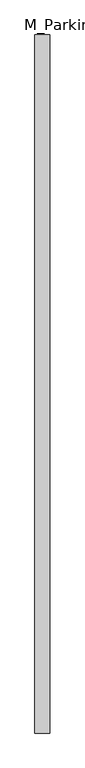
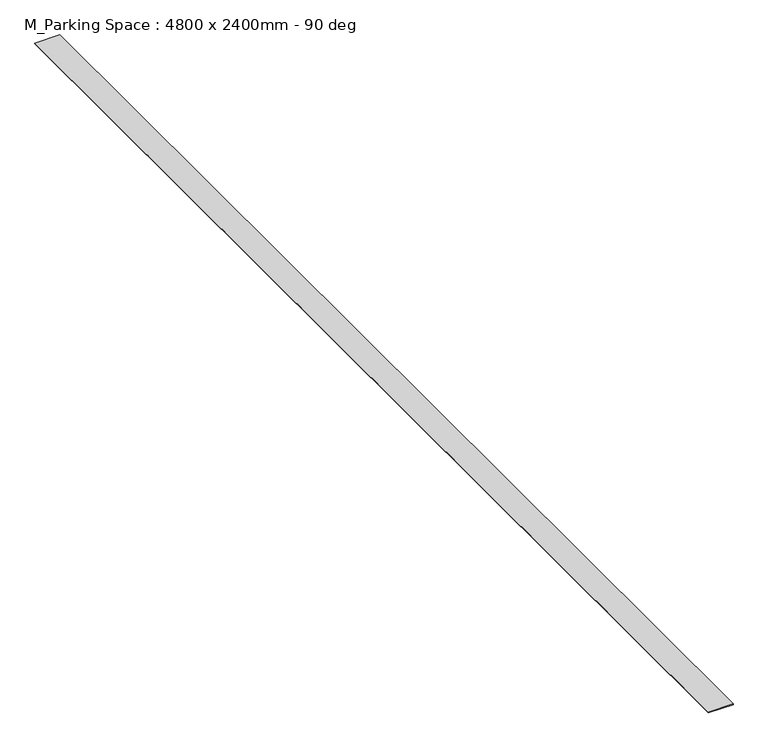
"""IFC4 building model written with IfcOpenShell, lengths in millimetres: proxy geometry, M_Parking Space : 4800 x 2400mm - 90 deg."""

from ifc_helpers import new_model, si_unit, origin, origin_with_axes, place, context, project, spatial, polyline, outline, extrude, source, transform, mapped, element, save


def m_parking_space_4800_x_2400mm_90_deg_2b7ae786(model_context):
    return source(origin(), model_context, "Body", "SweptSolid", [
        extrude(outline(polyline([(-50.8, 0.0), (50.8, 0.0), (50.8, -4800.0), (-50.8, -4800.0), (-50.8, 0.0)])), origin_with_axes(), (0.0, 0.0, 1.0), 3.175),
    ])


if __name__ == "__main__":
    model = new_model("IFC4")
    model_context = context("Model", 3, world=origin())
    ifc_project = project(units=[si_unit("LENGTHUNIT", "METRE", prefix="MILLI")], contexts=[model_context])
    site = spatial("IfcSite", under=ifc_project)
    building = spatial("IfcBuilding", under=site)
    placement = place(None, origin())
    m_parking_space_4800_x_2400mm_90_deg_shape = m_parking_space_4800_x_2400mm_90_deg_2b7ae786(model_context)
    element("IfcBuildingElementProxy", 1, Name="M_Parking Space : 4800 x 2400mm - 90 deg", ObjectType="M_Parking Space : 4800 x 2400mm - 90 deg", at=placement, inside=building, context=model_context, shape_type="MappedRepresentation", body=[
        mapped(m_parking_space_4800_x_2400mm_90_deg_shape, transform((0.0, 0.0, 0.0), x_axis=(1.0, 0.0, 0.0), y_axis=(0.0, 1.0, 0.0), z_axis=(0.0, 0.0, 1.0))),
    ])
    save(model, "model.ifc")
